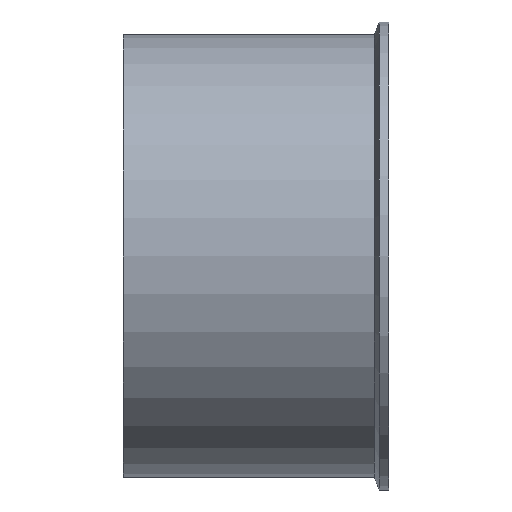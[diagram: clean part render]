
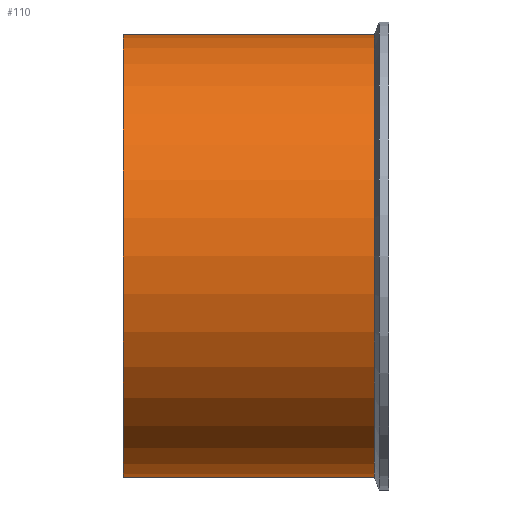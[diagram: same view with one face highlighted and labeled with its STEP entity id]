
A CAD part, left-side view. The second image highlights one B-rep face of the part: STEP entity #110.
In plain terms, the highlighted cylindrical face has radius 127 mm (diameter 254 mm), a partial arc.
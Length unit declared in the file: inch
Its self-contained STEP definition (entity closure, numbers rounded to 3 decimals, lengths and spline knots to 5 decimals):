
#18 = CARTESIAN_POINT ( 'NONE',  ( 0., 6., 5. ) ) ;
#24 = DIRECTION ( 'NONE',  ( 0., -1., 0. ) ) ;
#67 = CARTESIAN_POINT ( 'NONE',  ( 0., 6., 0. ) ) ;
#78 = AXIS2_PLACEMENT_3D ( 'NONE', #532, #224, #441 ) ;
#106 = VECTOR ( 'NONE', #370, 39.37008 ) ;
#108 = CARTESIAN_POINT ( 'NONE',  ( 0., 6., -5. ) ) ;
#110 = ADVANCED_FACE ( 'NONE', ( #151 ), #135, .T. ) ;
#112 = LINE ( 'NONE', #373, #106 ) ;
#135 = CYLINDRICAL_SURFACE ( 'NONE', #78, 5. ) ;
#151 = FACE_OUTER_BOUND ( 'NONE', #466, .T. ) ;
#152 = EDGE_CURVE ( 'NONE', #351, #262, #112, .T. ) ;
#194 = ORIENTED_EDGE ( 'NONE', *, *, #418, .T. ) ;
#223 = CARTESIAN_POINT ( 'NONE',  ( 0., 0.32373, -5. ) ) ;
#224 = DIRECTION ( 'NONE',  ( 0., -1., 0. ) ) ;
#251 = VERTEX_POINT ( 'NONE', #223 ) ;
#262 = VERTEX_POINT ( 'NONE', #386 ) ;
#288 = CARTESIAN_POINT ( 'NONE',  ( 0., 0.32373, 0. ) ) ;
#309 = ORIENTED_EDGE ( 'NONE', *, *, #363, .F. ) ;
#328 = VERTEX_POINT ( 'NONE', #108 ) ;
#351 = VERTEX_POINT ( 'NONE', #18 ) ;
#354 = VECTOR ( 'NONE', #445, 39.37008 ) ;
#363 = EDGE_CURVE ( 'NONE', #262, #251, #538, .T. ) ;
#370 = DIRECTION ( 'NONE',  ( 0., -1., 0. ) ) ;
#373 = CARTESIAN_POINT ( 'NONE',  ( 0., 0., 5. ) ) ;
#386 = CARTESIAN_POINT ( 'NONE',  ( 0., 0.32373, 5. ) ) ;
#396 = CARTESIAN_POINT ( 'NONE',  ( 0., 0., -5. ) ) ;
#407 = EDGE_CURVE ( 'NONE', #351, #328, #507, .T. ) ;
#418 = EDGE_CURVE ( 'NONE', #328, #251, #440, .T. ) ;
#430 = DIRECTION ( 'NONE',  ( 0., 0., -1. ) ) ;
#434 = DIRECTION ( 'NONE',  ( 0., 0., -1. ) ) ;
#440 = LINE ( 'NONE', #396, #354 ) ;
#441 = DIRECTION ( 'NONE',  ( 0., 0., -1. ) ) ;
#443 = DIRECTION ( 'NONE',  ( 0., -1., 0. ) ) ;
#445 = DIRECTION ( 'NONE',  ( 0., -1., 0. ) ) ;
#465 = AXIS2_PLACEMENT_3D ( 'NONE', #67, #24, #434 ) ;
#466 = EDGE_LOOP ( 'NONE', ( #482, #502, #194, #309 ) ) ;
#482 = ORIENTED_EDGE ( 'NONE', *, *, #152, .F. ) ;
#502 = ORIENTED_EDGE ( 'NONE', *, *, #407, .T. ) ;
#505 = AXIS2_PLACEMENT_3D ( 'NONE', #288, #443, #430 ) ;
#507 = CIRCLE ( 'NONE', #465, 5. ) ;
#532 = CARTESIAN_POINT ( 'NONE',  ( 0., 0., 0. ) ) ;
#538 = CIRCLE ( 'NONE', #505, 5. ) ;
